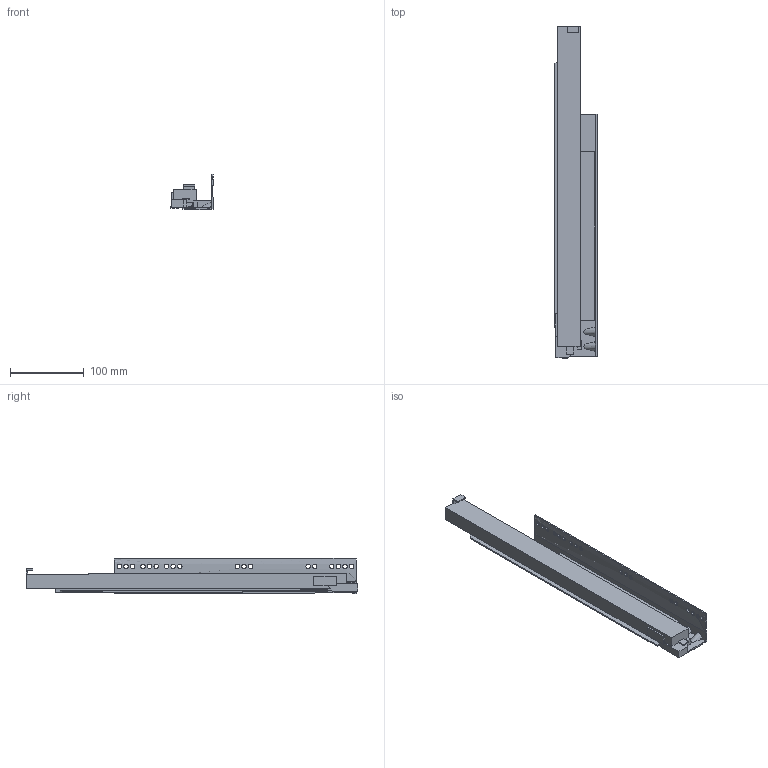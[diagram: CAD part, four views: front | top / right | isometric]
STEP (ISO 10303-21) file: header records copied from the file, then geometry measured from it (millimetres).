
FILE_DESCRIPTION (( 'STEP AP214' ), '1' );
FILE_NAME ('_IMOS_Dynapro_Softclose_D516_NL_450_RE.step', '2010-07-16T06:03:42', ( 'grass' ), ( '' ), 'SwSTEP 2.0', 'SolidWorks 2009', '' );
FILE_SCHEMA (( 'AUTOMOTIVE_DESIGN' ));
Length unit declared in the file: millimetre
Products named in the file (1): _IMOS_Dynapro_Softclose_D516_NL_450_RE
Bounding box: 57.08 x 450.07 x 47.86 mm (x, y, z)
Volume: 397057.2 mm3; surface area: 129762.9 mm2
Topology: 1 solids, 1 shells, 119 faces, 406 edges, 285 vertices
Faces by surface type: plane 76, cylinder 36, bspline 7
Entity records: 5236 total; most frequent: CARTESIAN_POINT 1525, ORIENTED_EDGE 804, DIRECTION 718, EDGE_CURVE 402, LINE 306, VECTOR 306, VERTEX_POINT 285, AXIS2_PLACEMENT_3D 206
